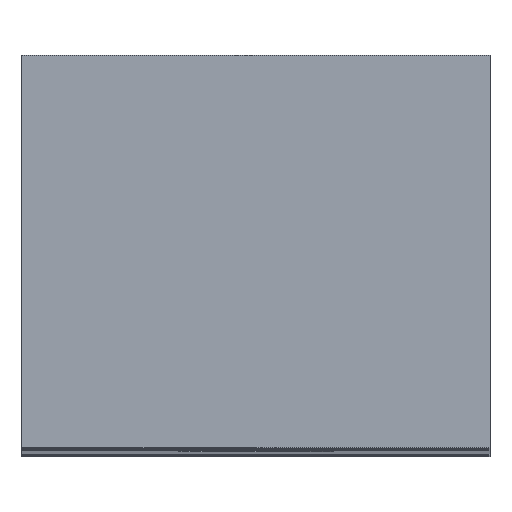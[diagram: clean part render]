
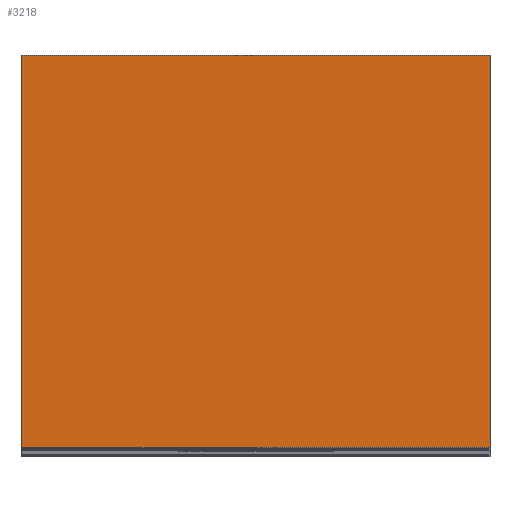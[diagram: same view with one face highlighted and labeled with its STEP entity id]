
A CAD part, top view. The second image highlights one B-rep face of the part: STEP entity #3218.
In plain terms, the highlighted planar face has unit normal (0, 0, 1).
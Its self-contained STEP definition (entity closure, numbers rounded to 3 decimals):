
#176=FACE_OUTER_BOUND('',#334,.T.);
#334=EDGE_LOOP('',(#2897,#2898,#2899,#2900));
#392=LINE('',#4289,#844);
#469=LINE('',#4442,#921);
#654=LINE('',#4811,#1106);
#656=LINE('',#4814,#1108);
#844=VECTOR('',#3485,10.);
#921=VECTOR('',#3576,10.);
#1106=VECTOR('',#3893,10.);
#1108=VECTOR('',#3897,10.);
#1289=VERTEX_POINT('',#4286);
#1290=VERTEX_POINT('',#4288);
#1359=VERTEX_POINT('',#4441);
#1477=VERTEX_POINT('',#4809);
#1604=EDGE_CURVE('',#1290,#1289,#392,.T.);
#1681=EDGE_CURVE('',#1359,#1290,#469,.T.);
#1866=EDGE_CURVE('',#1289,#1477,#654,.T.);
#1868=EDGE_CURVE('',#1477,#1359,#656,.T.);
#2897=ORIENTED_EDGE('',*,*,#1868,.T.);
#2898=ORIENTED_EDGE('',*,*,#1681,.T.);
#2899=ORIENTED_EDGE('',*,*,#1604,.T.);
#2900=ORIENTED_EDGE('',*,*,#1866,.T.);
#3063=PLANE('',#3391);
#3218=ADVANCED_FACE('',(#176),#3063,.T.);
#3391=AXIS2_PLACEMENT_3D('',#5078,#4159,#4160);
#3485=DIRECTION('',(0.,-1.,0.));
#3576=DIRECTION('',(-1.,0.,0.));
#3893=DIRECTION('',(1.,0.,0.));
#3897=DIRECTION('',(0.,1.,0.));
#4159=DIRECTION('center_axis',(0.,0.,1.));
#4160=DIRECTION('ref_axis',(1.,0.,0.));
#4286=CARTESIAN_POINT('',(83.8,34.6,248.));
#4288=CARTESIAN_POINT('',(83.8,45.,248.));
#4289=CARTESIAN_POINT('',(83.8,39.8,248.));
#4441=CARTESIAN_POINT('',(96.2,45.,248.));
#4442=CARTESIAN_POINT('',(90.,45.,248.));
#4809=CARTESIAN_POINT('',(96.2,34.6,248.));
#4811=CARTESIAN_POINT('',(90.,34.6,248.));
#4814=CARTESIAN_POINT('',(96.2,39.8,248.));
#5078=CARTESIAN_POINT('Origin',(90.,39.8,248.));
